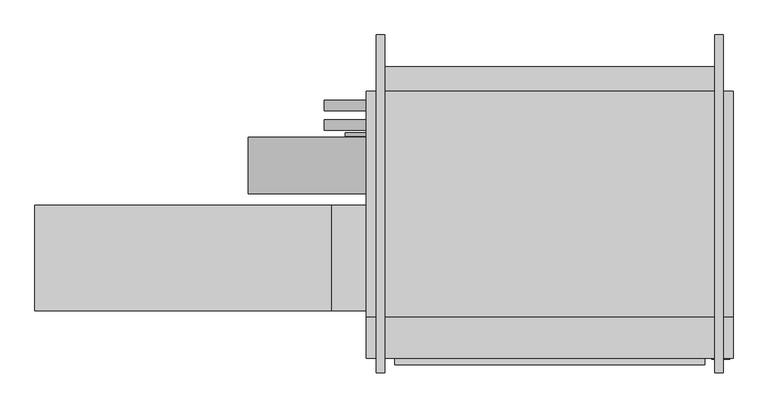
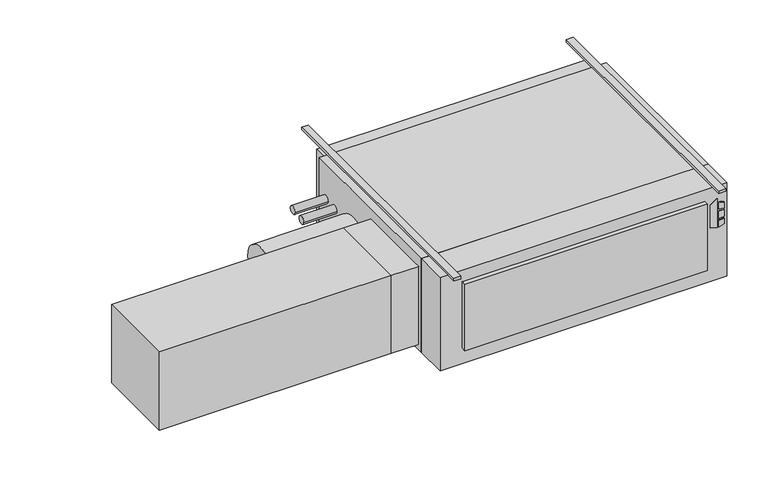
"""IFC4 building model written with IfcOpenShell, lengths in millimetres: proxy geometry."""

from ifc_helpers import new_model, si_unit, point, frame, frame_2d, origin, origin_with_axes, place, context, project, spatial, polyline, circle_curve, trimmed, segment, composite_curve, outline, extrude, source, transform, mapped, element, save


def mechanical_equipment_7905012c(model_context):
    return source(origin(), model_context, "Body", "SweptSolid", [
        extrude(outline(polyline([(-193.2519297, 735.0868862), (-203.2, 767.2602728), (-61.0290756, 767.2602728), (-84.0510817, 735.0868862), (-193.2519297, 735.0868862)])), frame((0.0, -797.052, 0.0), z_axis=(0.0, 1.0, 0.0), x_axis=(0.0, 0.0, 1.0)), (0.0, 0.0, 1.0), 3.175),
        extrude(outline(polyline([(-114.2526443, 774.0186058), (-117.4550368, 800.1), (-88.2261958, 800.1), (-80.1617807, 774.0186058), (-114.2526443, 774.0186058)])), frame((0.0, -797.052, 0.0), z_axis=(0.0, 1.0, 0.0), x_axis=(0.0, 0.0, 1.0)), (0.0, 0.0, 1.0), 3.175),
        extrude(outline(polyline([(-166.1161712, 800.1), (-169.7816721, 774.0186058), (-203.2, 774.0186058), (-194.5657628, 800.1), (-166.1161712, 800.1)])), frame((0.0, -797.052, 0.0), z_axis=(0.0, 1.0, 0.0), x_axis=(0.0, 0.0, 1.0)), (0.0, 0.0, 1.0), 3.175),
        extrude(outline(polyline([(-126.8010097, 800.1), (-124.5191834, 774.0186058), (-160.4567319, 774.0186058), (-157.7154669, 800.1), (-126.8010097, 800.1)])), frame((0.0, -797.052, 0.0), z_axis=(0.0, 1.0, 0.0), x_axis=(0.0, 0.0, 1.0)), (0.0, 0.0, 1.0), 3.175),
        extrude(outline(polyline([(812.8, -793.877), (-508.0, -793.877), (-508.0, -644.525), (812.8, -644.525), (812.8, -793.877)])), frame((0.0, 0.0, -457.2), z_axis=(0.0, 0.0, 1.0), x_axis=(1.0, 0.0, 0.0)), (0.0, 0.0, 1.0), 457.2),
        extrude(outline(polyline([(711.2, -816.229), (-406.4, -816.229), (-406.4, -793.877), (711.2, -793.877), (711.2, -816.229)])), frame((0.0, 0.0, -381.0), z_axis=(0.0, 0.0, 1.0), x_axis=(1.0, 0.0, 0.0)), (0.0, 0.0, 1.0), 323.85),
        extrude(outline(polyline([(-1701.8, -622.3), (-1701.8, -241.3), (-635.0, -241.3), (-635.0, -622.3), (-1701.8, -622.3)])), frame((0.0, 0.0, -431.8), z_axis=(0.0, 0.0, 1.0), x_axis=(1.0, 0.0, 0.0)), (0.0, 0.0, 1.0), 381.0),
        extrude(outline(polyline([(-508.0, -241.3), (-508.0, -622.3), (-635.0, -622.3), (-635.0, -241.3), (-508.0, -241.3)])), frame((0.0, 0.0, -431.8), z_axis=(0.0, 0.0, 1.0), x_axis=(1.0, 0.0, 0.0)), (0.0, 0.0, 1.0), 381.0),
        extrude(outline(composite_curve([segment(trimmed(circle_curve(frame_2d((-98.4896516, -228.6360165)), 101.6), [point((-200.0896516, -228.6360165))], [point((3.1103484, -228.6360165))], False, "CARTESIAN"), True, "CONTINUOUS"), segment(trimmed(circle_curve(frame_2d((-98.4896516, -228.6360165)), 101.6), [point((3.1103484, -228.6360165))], [point((-200.0896516, -228.6360165))], False, "CARTESIAN"), True, "CONTINUOUS")], self_intersect=False)), frame((-933.45, 0.0, 0.0), z_axis=(1.0, 0.0, 0.0), x_axis=(0.0, 1.0, 0.0)), (0.0, 0.0, 1.0), 425.45),
        extrude(outline(composite_curve([segment(trimmed(circle_curve(frame_2d((47.625, -177.8)), 19.05), [point((28.575, -177.8))], [point((66.675, -177.8))], False, "CARTESIAN"), True, "CONTINUOUS"), segment(trimmed(circle_curve(frame_2d((47.625, -177.8)), 19.05), [point((66.675, -177.8))], [point((28.575, -177.8))], False, "CARTESIAN"), True, "CONTINUOUS")], self_intersect=False)), frame((-660.4, 0.0, 0.0), z_axis=(1.0, 0.0, 0.0), x_axis=(0.0, 1.0, 0.0)), (0.0, 0.0, 1.0), 152.4),
        extrude(outline(composite_curve([segment(trimmed(circle_curve(frame_2d((117.475, -171.45)), 19.05), [point((98.425, -171.45))], [point((136.525, -171.45))], False, "CARTESIAN"), True, "CONTINUOUS"), segment(trimmed(circle_curve(frame_2d((117.475, -171.45)), 19.05), [point((136.525, -171.45))], [point((98.425, -171.45))], False, "CARTESIAN"), True, "CONTINUOUS")], self_intersect=False)), frame((-660.4, 0.0, 0.0), z_axis=(1.0, 0.0, 0.0), x_axis=(0.0, 1.0, 0.0)), (0.0, 0.0, 1.0), 152.4),
        extrude(outline(composite_curve([segment(trimmed(circle_curve(frame_2d((12.7, -409.575)), 6.35), [point((6.35, -409.575))], [point((19.05, -409.575))], False, "CARTESIAN"), True, "CONTINUOUS"), segment(trimmed(circle_curve(frame_2d((12.7, -409.575)), 6.35), [point((19.05, -409.575))], [point((6.35, -409.575))], False, "CARTESIAN"), True, "CONTINUOUS")], self_intersect=False)), frame((-584.2, 0.0, 0.0), z_axis=(1.0, 0.0, 0.0), x_axis=(0.0, 1.0, 0.0)), (0.0, 0.0, 1.0), 76.2),
        extrude(outline(polyline([(812.8, 168.275), (812.8, -644.525), (-508.0, -644.525), (-508.0, 168.275), (812.8, 168.275)])), frame((0.0, 0.0, -457.2), z_axis=(0.0, 0.0, 1.0), x_axis=(1.0, 0.0, 0.0)), (0.0, 0.0, 1.0), 457.2),
        extrude(outline(polyline([(-469.9, 257.175), (774.7, 257.175), (774.7, 168.275), (-469.9, 168.275), (-469.9, 257.175)])), frame((0.0, 0.0, -381.0), z_axis=(0.0, 0.0, 1.0), x_axis=(1.0, 0.0, 0.0)), (0.0, 0.0, 1.0), 355.6),
        extrude(outline(polyline([(-441.325, 371.475), (-441.325, -844.677), (-473.075, -844.677), (-473.075, 371.475), (-441.325, 371.475)])), origin_with_axes(), (0.0, 0.0, 1.0), 12.7),
        extrude(outline(polyline([(777.875, 371.475), (777.875, -844.677), (746.125, -844.677), (746.125, 371.475), (777.875, 371.475)])), origin_with_axes(), (0.0, 0.0, 1.0), 12.7),
    ])


if __name__ == "__main__":
    model = new_model("IFC4")
    model_context = context("Model", 3, world=origin())
    ifc_project = project(units=[si_unit("LENGTHUNIT", "METRE", prefix="MILLI")], contexts=[model_context])
    site = spatial("IfcSite", under=ifc_project)
    building = spatial("IfcBuilding", under=site)
    placement = place(None, origin())
    mechanical_equipment_shape = mechanical_equipment_7905012c(model_context)
    element("IfcBuildingElementProxy", 1, Name="High_Capacity_Horizontal_Cabinet_Fan_Coil_Unit_-_HTY_-_IEC_-_2 Pipe, Elec Heat_WO-Attenuator_LH Side_2022 : Size 18 - 277v/60Hz/1Ph - 8/0 Coil 10.0kW - 8\" AirIn", ObjectType="High_Capacity_Horizontal_Cabinet_Fan_Coil_Unit_-_HTY_-_IEC_-_2 Pipe, Elec Heat_WO-Attenuator_LH Side_2022 : Size 18 - 277v/60Hz/1Ph - 8/0 Coil 10.0kW - 8\" AirIn", at=placement, inside=building, context=model_context, shape_type="MappedRepresentation", body=[
        mapped(mechanical_equipment_shape, transform((0.0, 0.0, 0.0), x_axis=(1.0, 0.0, 0.0), y_axis=(0.0, 1.0, 0.0), z_axis=(0.0, 0.0, 1.0))),
    ])
    save(model, "model.ifc")
